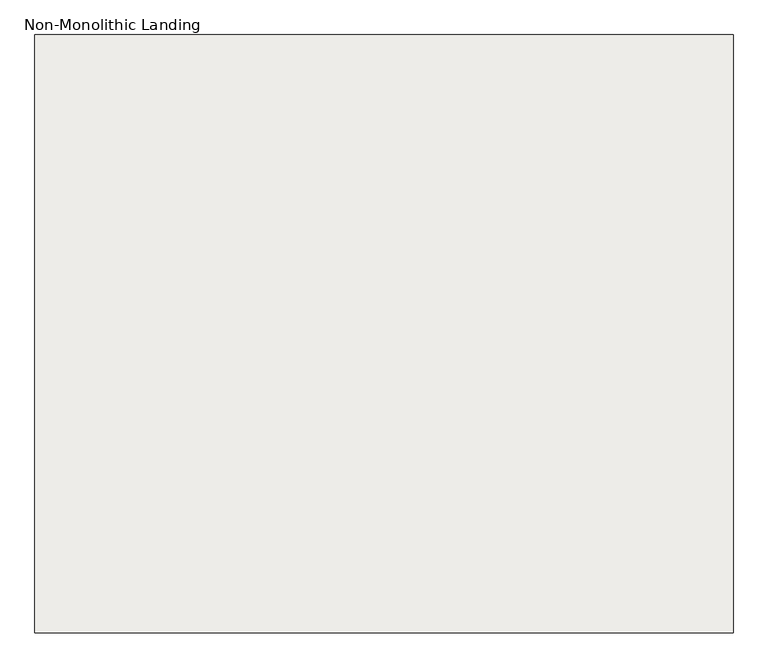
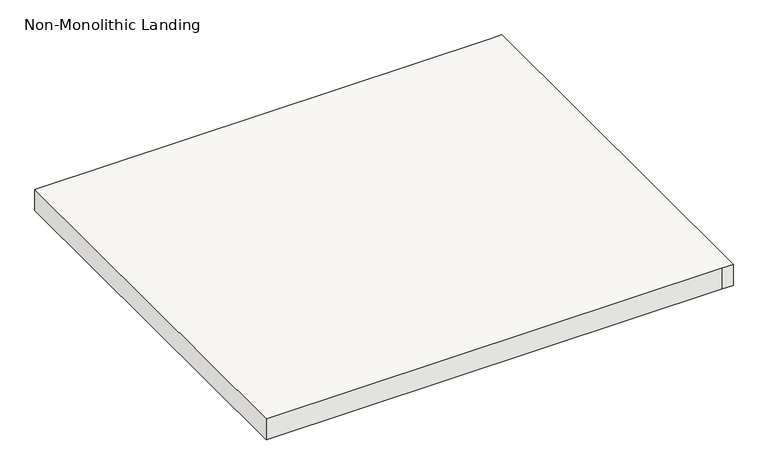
"""IFC4 building model written with IfcOpenShell, lengths in millimetres: slab geometry, Non-Monolithic Landing."""

import ifcopenshell
import ifcopenshell.guid

model = None  # the IFC model being written
_history = None  # IfcOwnerHistory: only IFC2X3 demands one
_inside = {}  # id of a spatial element -> (the spatial element, [elements in it])
_under = {}  # id of a project, library or spatial element -> (it, [spatial elements below it])
_declared = {}  # id of a project -> (the project, [libraries it declares])
_typed = {}  # id of a type object -> (the type object, [elements of that type])
_made_of = {}  # id of a material, layer set ... -> (it, [elements and type objects made of it])


def new_model(schema):
    """Start an empty IFC model of exactly this schema.

    Asked for "IFC4X3", IfcOpenShell would pick the latest addendum, in which some entities
    have other attributes; the version numbers below select the first issue.
    IFC2X3 requires an IfcOwnerHistory on every rooted entity: one is made here for all.
    """
    global model, _history
    if schema == "IFC4X3":
        model = ifcopenshell.file(schema_version=(4, 3, 0, 0))
    else:
        model = ifcopenshell.file(schema=schema)
    _inside.clear()
    _under.clear()
    _declared.clear()
    _typed.clear()
    _made_of.clear()
    _history = None
    if model.schema == "IFC2X3":
        org = make("IfcOrganization", Name="unknown")
        user = make(
            "IfcPersonAndOrganization",
            ThePerson=make("IfcPerson", FamilyName="unknown"),
            TheOrganization=org,
        )
        app = make(
            "IfcApplication",
            ApplicationDeveloper=org,
            Version="unknown",
            ApplicationFullName="unknown",
            ApplicationIdentifier="unknown",
        )
        _history = make(
            "IfcOwnerHistory",
            OwningUser=user,
            OwningApplication=app,
            ChangeAction="ADDED",
            CreationDate=0,
        )
    return model


def make(cls, **values):
    """One entity of the class cls with the attributes given. An attribute that is None is left unset."""
    return model.create_entity(
        cls, **{name: value for name, value in values.items() if value is not None}
    )


def rooted(cls, **values):
    """An entity with a GlobalId (a new one), such as an element, a storey or a relation."""
    return make(cls, GlobalId=ifcopenshell.guid.new(), OwnerHistory=_history, **values)


def si_unit(unit_type, name, prefix=None):
    """IfcSIUnit, for example si_unit("LENGTHUNIT", "METRE", prefix="MILLI")."""
    return make("IfcSIUnit", UnitType=unit_type, Prefix=prefix, Name=name)


def assignment(units):
    """IfcUnitAssignment: the units of a project."""
    return None if units is None else make("IfcUnitAssignment", Units=units)


def point(xyz):
    """IfcCartesianPoint."""
    return None if xyz is None else make("IfcCartesianPoint", Coordinates=xyz)


def direction(xyz):
    """IfcDirection."""
    return None if xyz is None else make("IfcDirection", DirectionRatios=xyz)


def frame(location, z_axis=None, x_axis=None):
    """IfcAxis2Placement3D, a coordinate frame: its origin and axes. An axis left out is left unset."""
    return make(
        "IfcAxis2Placement3D",
        Location=point(location),
        Axis=direction(z_axis),
        RefDirection=direction(x_axis),
    )


def origin():
    """The frame at (0, 0, 0) with its axes left unset."""
    return frame((0.0, 0.0, 0.0))


def place(relative_to, where):
    """IfcLocalPlacement: puts the frame where relative to a parent placement (None: the world)."""
    return make(
        "IfcLocalPlacement", PlacementRelTo=relative_to, RelativePlacement=where
    )


def context(
    kind, dimensions, precision=None, world=None, true_north=None, identifier=None
):
    """IfcGeometricRepresentationContext, for example the 3D "Model" context."""
    return make(
        "IfcGeometricRepresentationContext",
        ContextIdentifier=identifier,
        ContextType=kind,
        CoordinateSpaceDimension=dimensions,
        Precision=precision,
        WorldCoordinateSystem=world,
        TrueNorth=true_north,
    )


def project(units=None, contexts=None):
    """IfcProject with its units and contexts."""
    return rooted(
        "IfcProject",
        Name="project",
        RepresentationContexts=contexts,
        UnitsInContext=assignment(units),
    )


def spatial(cls, under=None, at=None, **own):
    """A site, building, storey or space (cls), placed at a placement, below another one or the project."""
    s = rooted(cls, ObjectPlacement=at, **own)
    if under is not None:
        _under.setdefault(under.id(), (under, []))[1].append(s)
    return s


def polyline(points):
    """IfcPolyline through the points."""
    return make("IfcPolyline", Points=[point(p) for p in points])


def outline(outer, holes=None, kind="AREA"):
    """IfcArbitraryClosedProfileDef: a profile drawn as a closed curve; with holes, ...WithVoids."""
    if holes is None:
        return make("IfcArbitraryClosedProfileDef", ProfileType=kind, OuterCurve=outer)
    return make(
        "IfcArbitraryProfileDefWithVoids",
        ProfileType=kind,
        OuterCurve=outer,
        InnerCurves=holes,
    )


def extrude(swept, where, along, depth):
    """IfcExtrudedAreaSolid: the profile swept, set in the frame where, extruded along a direction by depth."""
    return make(
        "IfcExtrudedAreaSolid",
        SweptArea=swept,
        Position=where,
        ExtrudedDirection=direction(along),
        Depth=depth,
    )


def shape(context_of_items, identifier, shape_type, items):
    """IfcShapeRepresentation: the items that make up one representation, for example the "Body"."""
    return make(
        "IfcShapeRepresentation",
        ContextOfItems=context_of_items,
        RepresentationIdentifier=identifier,
        RepresentationType=shape_type,
        Items=items,
    )


def source(mapping_origin, context_of_items, identifier, shape_type, items):
    """IfcRepresentationMap: a shape defined once, which mapped items show again and again."""
    return make(
        "IfcRepresentationMap",
        MappingOrigin=mapping_origin,
        MappedRepresentation=shape(context_of_items, identifier, shape_type, items),
    )


def transform(
    local_origin,
    x_axis=None,
    y_axis=None,
    z_axis=None,
    scale=None,
    scale2=None,
    scale3=None,
    uniform=True,
):
    """IfcCartesianTransformationOperator3D, or its non-uniform kind. x_axis, y_axis, z_axis: its Axis1, 2, 3."""
    if uniform:
        return make(
            "IfcCartesianTransformationOperator3D",
            Axis1=direction(x_axis),
            Axis2=direction(y_axis),
            LocalOrigin=point(local_origin),
            Scale=scale,
            Axis3=direction(z_axis),
        )
    return make(
        "IfcCartesianTransformationOperator3DnonUniform",
        Axis1=direction(x_axis),
        Axis2=direction(y_axis),
        LocalOrigin=point(local_origin),
        Scale=scale,
        Axis3=direction(z_axis),
        Scale2=scale2,
        Scale3=scale3,
    )


def mapped(mapping_source, mapping_target):
    """IfcMappedItem: shows the shape of a source again, moved by a transform."""
    return make(
        "IfcMappedItem", MappingSource=mapping_source, MappingTarget=mapping_target
    )


def made_of(thing, what):
    """Note that an element or type object is made of a material, layer set ...; save() writes the relation."""
    if what is not None:
        _made_of.setdefault(what.id(), (what, []))[1].append(thing)
    return thing


def element(
    cls,
    number,
    at=None,
    inside=None,
    cuts=None,
    type_object=None,
    material=None,
    context=None,
    identifier="Body",
    shape_type=None,
    held_by="IfcProductDefinitionShape",
    body=None,
    shapes=None,
    **own,
):
    """One element of the class cls, such as IfcWall. Its Tag is "e" and its number.

    at: its placement. inside: the storey or other place that contains it. cuts: it is an
    opening in that element (IfcRelVoidsElement). A single representation is given by context,
    identifier, shape_type and body (its items); several are given by shapes. held_by: the class
    of the entity that holds the representations. save() writes the other relations.
    """
    e = rooted(cls, Tag="e%d" % number, ObjectPlacement=at, **own)
    if body is not None:
        shapes = [shape(context, identifier, shape_type, body)]
    if shapes is not None:
        e.Representation = make(held_by, Representations=shapes)
    if inside is not None:
        _inside.setdefault(inside.id(), (inside, []))[1].append(e)
    if cuts is not None:
        rooted(
            "IfcRelVoidsElement", RelatingBuildingElement=cuts, RelatedOpeningElement=e
        )
    if type_object is not None:
        _typed.setdefault(type_object.id(), (type_object, []))[1].append(e)
    return made_of(e, material)


def aggregate(whole, parts):
    """IfcRelAggregates: a whole, such as a stair, and the parts it consists of."""
    return rooted("IfcRelAggregates", RelatingObject=whole, RelatedObjects=parts)


def save(model, path):
    """Write the relations noted so far, then the file.

    IfcRelAggregates (storeys below a building ...), IfcRelContainedInSpatialStructure (elements
    in a storey), IfcRelDefinesByType, IfcRelAssociatesMaterial and IfcRelDeclares: one each for
    every whole, place, type object, material and project.
    """
    for whole, parts in _under.values():
        aggregate(whole, parts)
    for where, things in _inside.values():
        rooted(
            "IfcRelContainedInSpatialStructure",
            RelatedElements=things,
            RelatingStructure=where,
        )
    for kind, things in _typed.values():
        rooted("IfcRelDefinesByType", RelatedObjects=things, RelatingType=kind)
    for what, things in _made_of.values():
        rooted("IfcRelAssociatesMaterial", RelatedObjects=things, RelatingMaterial=what)
    for by, libraries in _declared.values():
        rooted("IfcRelDeclares", RelatingContext=by, RelatedDefinitions=libraries)
    model.write(path)


def non_monolithic_landing_24d4a4f4(model_context):
    return source(origin(), model_context, "Body", "SweptSolid", [
        extrude(outline(polyline([(5926.9873344, 4607.959649), (6968.3873344, 4607.959649), (6993.7873344, 4607.959649), (6993.7873344, 3693.559649), (6968.3873344, 3693.559649), (5926.9873344, 3693.559649), (5926.9873344, 4607.959649)])), frame((0.0, 0.0, 2069.5478261), z_axis=(0.0, 0.0, 1.0), x_axis=(1.0, 0.0, 0.0)), (0.0, 0.0, 1.0), 50.8),
    ])


if __name__ == "__main__":
    model = new_model("IFC4")
    model_context = context("Model", 3, world=origin())
    ifc_project = project(units=[si_unit("LENGTHUNIT", "METRE", prefix="MILLI")], contexts=[model_context])
    site = spatial("IfcSite", under=ifc_project)
    building = spatial("IfcBuilding", under=site)
    placement = place(None, origin())
    non_monolithic_landing_shape = non_monolithic_landing_24d4a4f4(model_context)
    element("IfcSlab", 1, ObjectType="Non-Monolithic Landing", at=placement, inside=building, context=model_context, shape_type="MappedRepresentation", body=[
        mapped(non_monolithic_landing_shape, transform((0.0, 0.0, 0.0), x_axis=(1.0, 0.0, 0.0), y_axis=(0.0, 1.0, 0.0), z_axis=(0.0, 0.0, 1.0))),
    ])
    save(model, "model.ifc")
